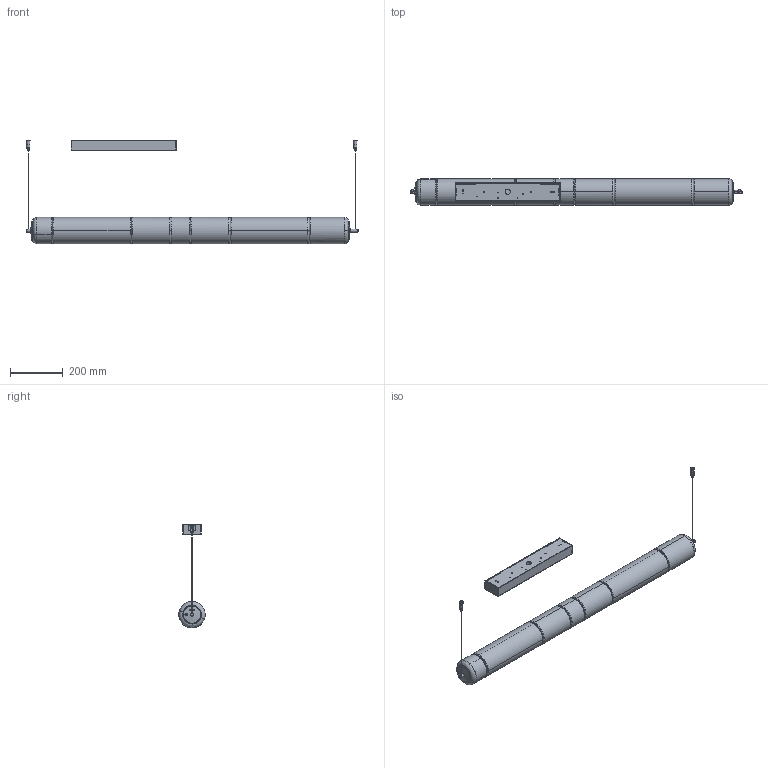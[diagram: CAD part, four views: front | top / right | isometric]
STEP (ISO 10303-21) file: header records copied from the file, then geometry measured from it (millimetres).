
FILE_DESCRIPTION(/* description */ (''),/* implementation_level */ '2;1');
FILE_NAME(/* name */ '00343MP8LD00CEPB - STACKING S 120 H GLASS EMEA',/* time_stamp */ '2023-09-27T17:41:30+02:00',/* author */ (''),/* organization */ (''),/* preprocessor_version */ 'ST-DEVELOPER v16.5',/* originating_system */ 'Rhino 7.27',/* authorisation */ '');
FILE_SCHEMA (('CONFIG_CONTROL_DESIGN'));
Length unit declared in the file: millimetre
Products named in the file (1): Document
Bounding box: 1261 x 100 x 393.5 mm (x, y, z)
Volume: 2066451.8 mm3; surface area: 1712272.1 mm2
Topology: 31 solids, 31 shells, 1038 faces, 2483 edges, 1606 vertices
Faces by surface type: plane 458, cylinder 337, bspline 243
Entity records: 35186 total; most frequent: CARTESIAN_POINT 18638, ORIENTED_EDGE 4934, EDGE_CURVE 2467, VERTEX_POINT 1606, EDGE_LOOP 1247, B_SPLINE_CURVE_WITH_KNOTS 1137, ADVANCED_FACE 1038, FACE_OUTER_BOUND 1038
